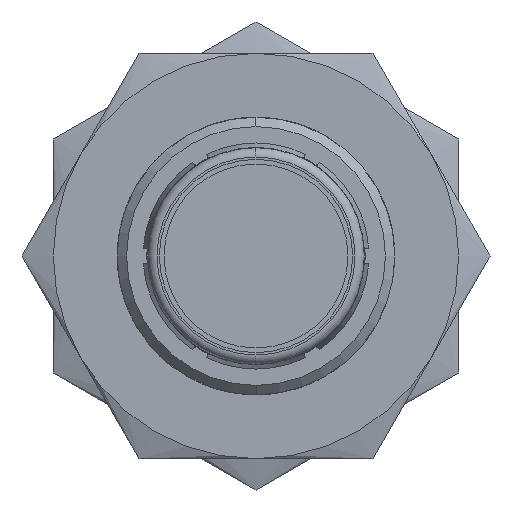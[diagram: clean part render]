
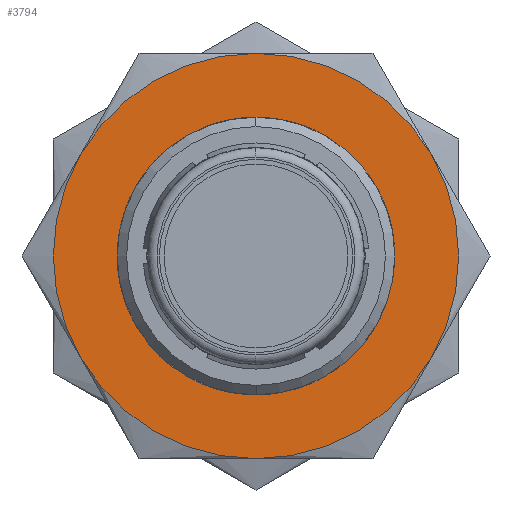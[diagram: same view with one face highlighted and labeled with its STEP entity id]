
A CAD part, front view. The second image highlights one B-rep face of the part: STEP entity #3794.
In plain terms, the highlighted planar face has unit normal (0, -1, 0).
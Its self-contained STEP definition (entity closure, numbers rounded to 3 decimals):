
#1577=CARTESIAN_POINT('',(0.,7.35,0.));
#1578=DIRECTION('',(0.,-1.,0.));
#1579=DIRECTION('',(0.,0.,-1.));
#1580=AXIS2_PLACEMENT_3D('',#1577,#1578,#1579);
#1585=CARTESIAN_POINT('',(0.,7.35,0.));
#1586=DIRECTION('',(0.,1.,0.));
#1587=DIRECTION('',(0.,0.,-1.));
#1588=AXIS2_PLACEMENT_3D('',#1585,#1586,#1587);
#1593=CARTESIAN_POINT('',(0.,7.35,0.));
#1594=DIRECTION('',(0.,1.,0.));
#1595=DIRECTION('',(-0.866,0.,-0.5));
#1596=AXIS2_PLACEMENT_3D('',#1593,#1594,#1595);
#1601=CARTESIAN_POINT('',(0.,7.35,0.));
#1602=DIRECTION('',(0.,1.,0.));
#1603=DIRECTION('',(0.,0.,1.));
#1604=AXIS2_PLACEMENT_3D('',#1601,#1602,#1603);
#1609=CARTESIAN_POINT('',(0.,7.35,0.));
#1610=DIRECTION('',(0.,1.,0.));
#1611=DIRECTION('',(0.866,0.,0.5));
#1612=AXIS2_PLACEMENT_3D('',#1609,#1610,#1611);
#1617=CARTESIAN_POINT('',(0.,7.35,0.));
#1618=DIRECTION('',(0.,-1.,0.));
#1619=DIRECTION('',(0.,0.,1.));
#1620=AXIS2_PLACEMENT_3D('',#1617,#1618,#1619);
#1625=CARTESIAN_POINT('',(0.,7.35,0.));
#1626=DIRECTION('',(0.,1.,0.));
#1627=DIRECTION('',(1.,0.,0.));
#1628=AXIS2_PLACEMENT_3D('',#1625,#1626,#1627);
#1671=CARTESIAN_POINT('',(0.,7.35,0.));
#1672=DIRECTION('',(0.,1.,0.));
#1673=DIRECTION('',(-1.,0.,0.));
#1674=AXIS2_PLACEMENT_3D('',#1671,#1672,#1673);
#2251=CARTESIAN_POINT('',(0.,7.35,-6.5));
#2252=CARTESIAN_POINT('',(-5.629,7.35,-3.25));
#2253=VERTEX_POINT('',#2251);
#2254=VERTEX_POINT('',#2252);
#2255=CARTESIAN_POINT('',(-5.629,7.35,3.25));
#2256=VERTEX_POINT('',#2255);
#2257=CARTESIAN_POINT('',(0.,7.35,6.5));
#2258=CARTESIAN_POINT('',(5.629,7.35,3.25));
#2259=VERTEX_POINT('',#2257);
#2260=VERTEX_POINT('',#2258);
#2261=CARTESIAN_POINT('',(5.629,7.35,-3.25));
#2262=VERTEX_POINT('',#2261);
#2279=CARTESIAN_POINT('',(4.,7.35,0.));
#2280=CARTESIAN_POINT('',(-4.,7.35,0.));
#2281=VERTEX_POINT('',#2279);
#2282=VERTEX_POINT('',#2280);
#3770=CARTESIAN_POINT('',(0.,7.35,0.));
#3771=DIRECTION('',(0.,-1.,0.));
#3772=DIRECTION('',(0.866,0.,0.5));
#3773=AXIS2_PLACEMENT_3D('',#3770,#3771,#3772);
#3774=PLANE('',#3773);
#3775=ORIENTED_EDGE('',*,*,#3753,.F.);
#3777=ORIENTED_EDGE('',*,*,#3776,.T.);
#3779=ORIENTED_EDGE('',*,*,#3778,.T.);
#3781=ORIENTED_EDGE('',*,*,#3780,.F.);
#3783=ORIENTED_EDGE('',*,*,#3782,.T.);
#3785=ORIENTED_EDGE('',*,*,#3784,.T.);
#3786=EDGE_LOOP('',(#3775,#3777,#3779,#3781,#3783,#3785));
#3787=FACE_OUTER_BOUND('',#3786,.F.);
#3789=ORIENTED_EDGE('',*,*,#3788,.F.);
#3791=ORIENTED_EDGE('',*,*,#3790,.F.);
#3792=EDGE_LOOP('',(#3789,#3791));
#3793=FACE_BOUND('',#3792,.F.);
#1581=CIRCLE('',#1580,6.5);
#1589=CIRCLE('',#1588,6.5);
#1597=CIRCLE('',#1596,6.5);
#1605=CIRCLE('',#1604,6.5);
#1613=CIRCLE('',#1612,6.5);
#1621=CIRCLE('',#1620,6.5);
#1629=CIRCLE('',#1628,4.);
#1675=CIRCLE('',#1674,4.);
#3753=EDGE_CURVE('',#2253,#2262,#1581,.T.);
#3776=EDGE_CURVE('',#2253,#2254,#1589,.T.);
#3778=EDGE_CURVE('',#2254,#2256,#1597,.T.);
#3780=EDGE_CURVE('',#2259,#2256,#1621,.T.);
#3782=EDGE_CURVE('',#2259,#2260,#1605,.T.);
#3784=EDGE_CURVE('',#2260,#2262,#1613,.T.);
#3788=EDGE_CURVE('',#2281,#2282,#1629,.T.);
#3790=EDGE_CURVE('',#2282,#2281,#1675,.T.);
#3794=ADVANCED_FACE('',(#3787,#3793),#3774,.T.);
